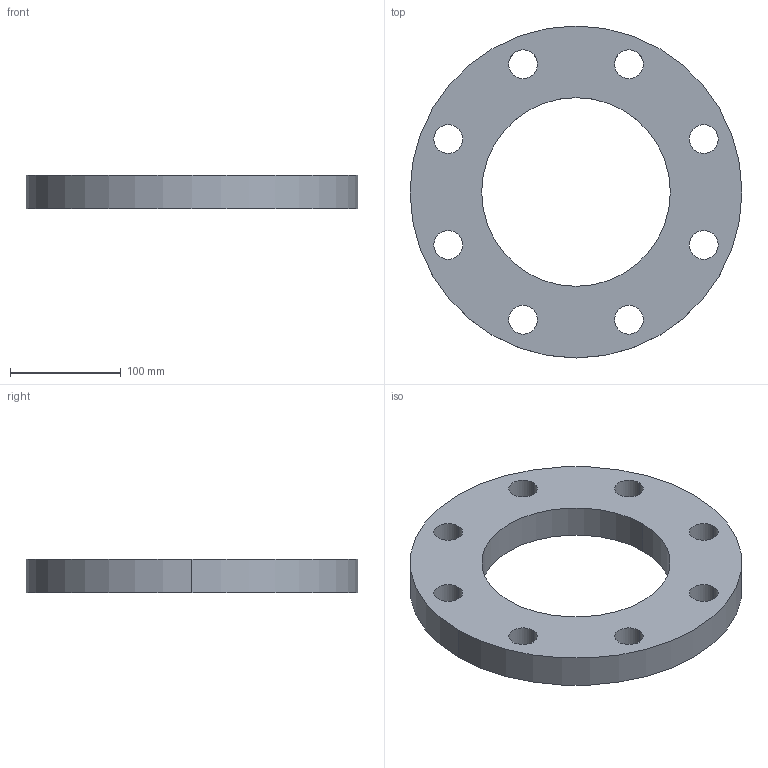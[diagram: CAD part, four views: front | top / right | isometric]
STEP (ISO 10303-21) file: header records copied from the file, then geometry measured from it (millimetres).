
FILE_DESCRIPTION (( 'STEP AP214' ), '1' );
FILE_NAME ('PN40 DN150 Type 01 - Type A Face.STEP', '2019-01-05T00:26:55', ( '' ), ( '' ), 'SwSTEP 2.0', 'SolidWorks 2019', '' );
FILE_SCHEMA (( 'AUTOMOTIVE_DESIGN' ));
Length unit declared in the file: millimetre
Products named in the file (1): PN40 DN150 Type 01 - Type A Face
Bounding box: 300 x 300 x 30 mm (x, y, z)
Volume: 1308200.4 mm3; surface area: 151160.5 mm2
Topology: 1 solids, 1 shells, 22 faces, 60 edges, 40 vertices
Faces by surface type: cylinder 20, plane 2
Entity records: 794 total; most frequent: DIRECTION 146, CARTESIAN_POINT 123, ORIENTED_EDGE 120, AXIS2_PLACEMENT_3D 63, EDGE_CURVE 60, CIRCLE 40, EDGE_LOOP 40, VERTEX_POINT 40
